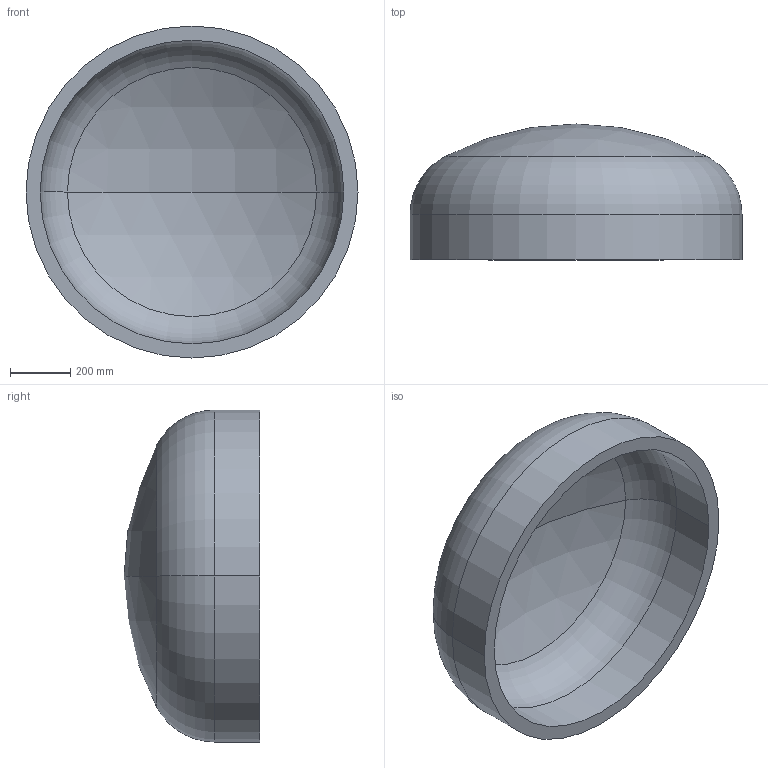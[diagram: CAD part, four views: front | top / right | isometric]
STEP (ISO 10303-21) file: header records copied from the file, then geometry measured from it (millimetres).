
FILE_DESCRIPTION (( 'STEP AP203' ), '1' );
FILE_NAME ('DIN 28013 Korbbogenform_-_Boden DIN 28013 - 1100 x 150 - I - s=47.step', '2016-07-01T09:09:12', ( '' ), ( '' ), 'SwSTEP 2.0', 'SolidWorks 2013', '' );
FILE_SCHEMA (( 'CONFIG_CONTROL_DESIGN' ));
Length unit declared in the file: millimetre
Products named in the file (1): DIN 28013 Korbbogenform_-_Boden DIN 28013 - 1100 x 150 - I - s=47
Bounding box: 1100 x 449.93 x 1100 mm (x, y, z)
Volume: 81901143.4 mm3; surface area: 3645261.3 mm2
Topology: 1 solids, 1 shells, 13 faces, 24 edges, 14 vertices
Faces by surface type: torus 4, cylinder 4, sphere 4, plane 1
Entity records: 407 total; most frequent: DIRECTION 72, CARTESIAN_POINT 52, ORIENTED_EDGE 48, AXIS2_PLACEMENT_3D 34, EDGE_CURVE 24, CIRCLE 20, VERTEX_POINT 14, EDGE_LOOP 14
